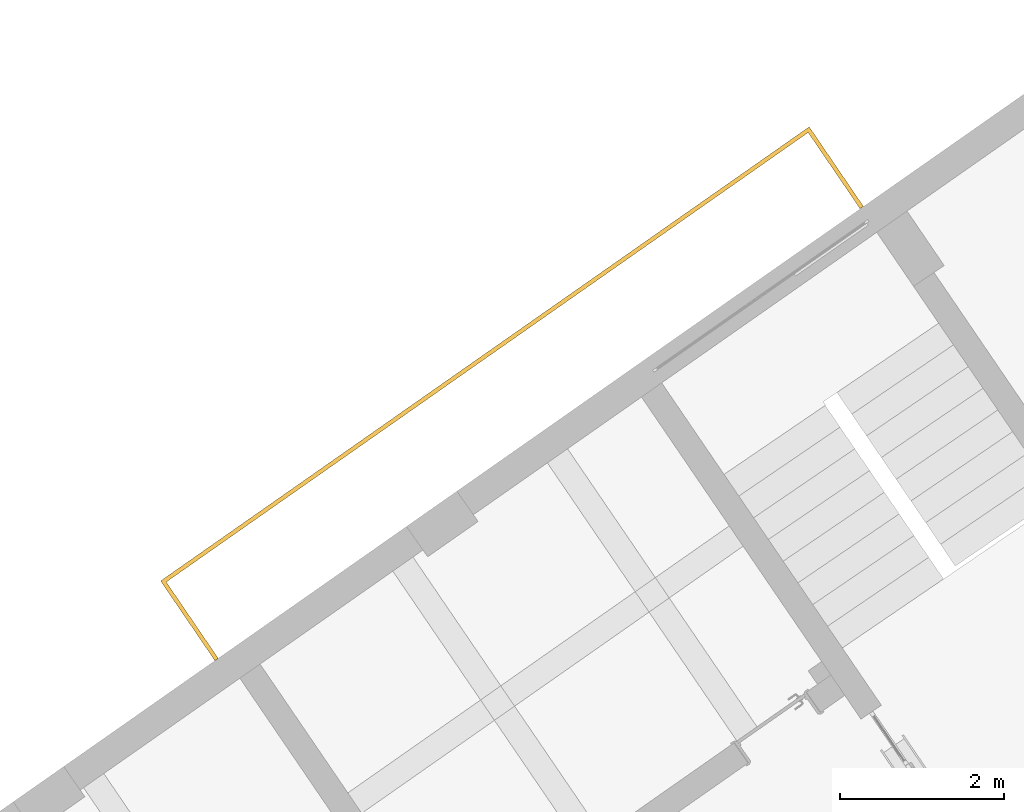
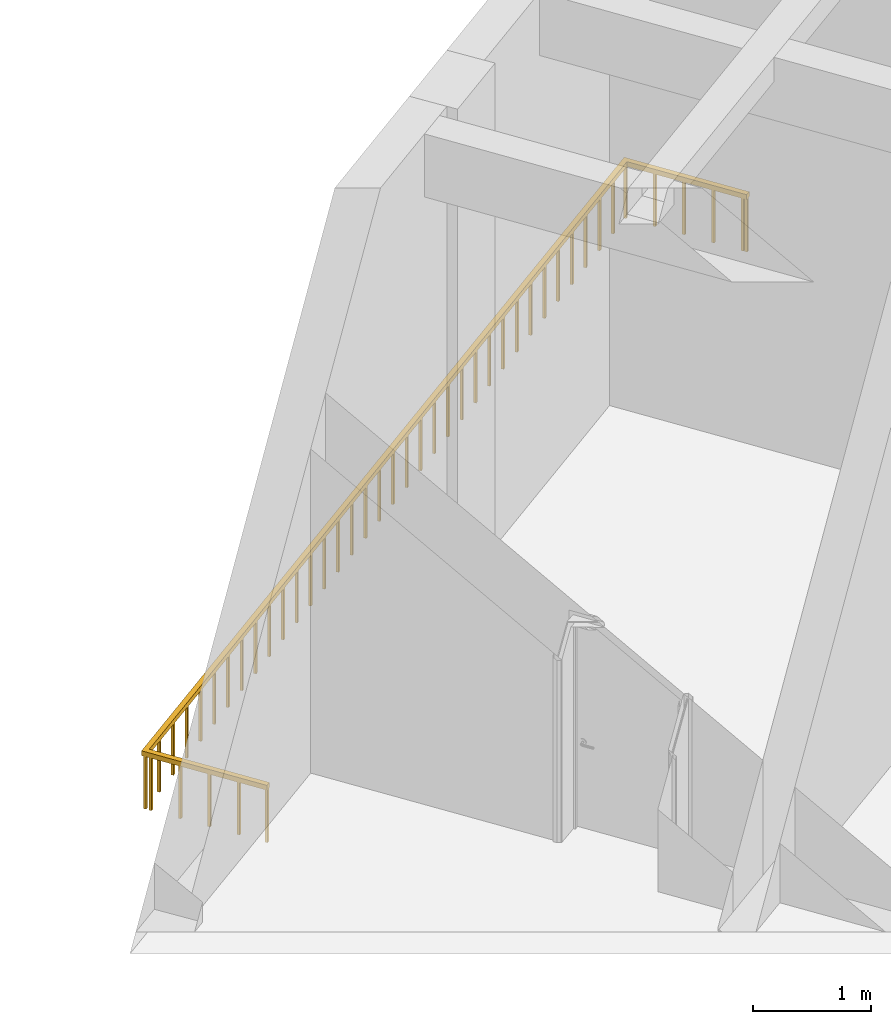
# One storey, part 156 of 157: 1 railing.
"""IFC2X3 building model written with IfcOpenShell, lengths in millimetres."""

import ifcopenshell
import ifcopenshell.guid

model = None  # the IFC model being written
_history = None  # IfcOwnerHistory: only IFC2X3 demands one
_inside = {}  # id of a spatial element -> (the spatial element, [elements in it])
_under = {}  # id of a project, library or spatial element -> (it, [spatial elements below it])
_declared = {}  # id of a project -> (the project, [libraries it declares])
_typed = {}  # id of a type object -> (the type object, [elements of that type])
_made_of = {}  # id of a material, layer set ... -> (it, [elements and type objects made of it])


def new_model(schema):
    """Start an empty IFC model of exactly this schema.

    Asked for "IFC4X3", IfcOpenShell would pick the latest addendum, in which some entities
    have other attributes; the version numbers below select the first issue.
    IFC2X3 requires an IfcOwnerHistory on every rooted entity: one is made here for all.
    """
    global model, _history
    if schema == "IFC4X3":
        model = ifcopenshell.file(schema_version=(4, 3, 0, 0))
    else:
        model = ifcopenshell.file(schema=schema)
    _inside.clear()
    _under.clear()
    _declared.clear()
    _typed.clear()
    _made_of.clear()
    _history = None
    if model.schema == "IFC2X3":
        org = make("IfcOrganization", Name="unknown")
        user = make(
            "IfcPersonAndOrganization",
            ThePerson=make("IfcPerson", FamilyName="unknown"),
            TheOrganization=org,
        )
        app = make(
            "IfcApplication",
            ApplicationDeveloper=org,
            Version="unknown",
            ApplicationFullName="unknown",
            ApplicationIdentifier="unknown",
        )
        _history = make(
            "IfcOwnerHistory",
            OwningUser=user,
            OwningApplication=app,
            ChangeAction="ADDED",
            CreationDate=0,
        )
    return model


def make(cls, **values):
    """One entity of the class cls with the attributes given. An attribute that is None is left unset."""
    return model.create_entity(
        cls, **{name: value for name, value in values.items() if value is not None}
    )


def entity(cls, *values):
    """Any entity or typed value of the class cls, its attributes in the order of the schema. None: left unset."""
    e = model.create_entity(cls)
    for i, value in enumerate(values):
        if value is not None:
            e[i] = value
    return e


def rooted(cls, **values):
    """An entity with a GlobalId (a new one), such as an element, a storey or a relation."""
    return make(cls, GlobalId=ifcopenshell.guid.new(), OwnerHistory=_history, **values)


def si_unit(unit_type, name, prefix=None):
    """IfcSIUnit, for example si_unit("LENGTHUNIT", "METRE", prefix="MILLI")."""
    return make("IfcSIUnit", UnitType=unit_type, Prefix=prefix, Name=name)


def converted_unit(unit_type, name, factor, base, dimensions=None, offset=None):
    """IfcConversionBasedUnit, such as the inch: factor (a typed value) times the base unit."""
    return make(
        "IfcConversionBasedUnit"
        if offset is None
        else "IfcConversionBasedUnitWithOffset",
        ConversionOffset=offset,
        Dimensions=None
        if dimensions is None
        else entity("IfcDimensionalExponents", *dimensions),
        UnitType=unit_type,
        Name=name,
        ConversionFactor=make(
            "IfcMeasureWithUnit", ValueComponent=factor, UnitComponent=base
        ),
    )


def derived_unit(unit_type, elements):
    """IfcDerivedUnit: a product of units, each with its exponent."""
    return make(
        "IfcDerivedUnit",
        Elements=[
            make("IfcDerivedUnitElement", Unit=unit, Exponent=power)
            for unit, power in elements
        ],
        UnitType=unit_type,
    )


def assignment(units):
    """IfcUnitAssignment: the units of a project."""
    return None if units is None else make("IfcUnitAssignment", Units=units)


def point(xyz):
    """IfcCartesianPoint."""
    return None if xyz is None else make("IfcCartesianPoint", Coordinates=xyz)


def direction(xyz):
    """IfcDirection."""
    return None if xyz is None else make("IfcDirection", DirectionRatios=xyz)


def frame(location, z_axis=None, x_axis=None):
    """IfcAxis2Placement3D, a coordinate frame: its origin and axes. An axis left out is left unset."""
    return make(
        "IfcAxis2Placement3D",
        Location=point(location),
        Axis=direction(z_axis),
        RefDirection=direction(x_axis),
    )


def origin():
    """The frame at (0, 0, 0) with its axes left unset."""
    return frame((0.0, 0.0, 0.0))


def place(relative_to, where):
    """IfcLocalPlacement: puts the frame where relative to a parent placement (None: the world)."""
    return make(
        "IfcLocalPlacement", PlacementRelTo=relative_to, RelativePlacement=where
    )


def context(
    kind, dimensions, precision=None, world=None, true_north=None, identifier=None
):
    """IfcGeometricRepresentationContext, for example the 3D "Model" context."""
    return make(
        "IfcGeometricRepresentationContext",
        ContextIdentifier=identifier,
        ContextType=kind,
        CoordinateSpaceDimension=dimensions,
        Precision=precision,
        WorldCoordinateSystem=world,
        TrueNorth=true_north,
    )


def subcontext(parent, identifier, kind, view, scale=None):
    """IfcGeometricRepresentationSubContext, for example "Body" below "Model"."""
    return make(
        "IfcGeometricRepresentationSubContext",
        ContextIdentifier=identifier,
        ContextType=kind,
        ParentContext=parent,
        TargetScale=scale,
        TargetView=view,
    )


def project(units=None, contexts=None):
    """IfcProject with its units and contexts."""
    return rooted(
        "IfcProject",
        Name="project",
        RepresentationContexts=contexts,
        UnitsInContext=assignment(units),
    )


def spatial(cls, under=None, at=None, **own):
    """A site, building, storey or space (cls), placed at a placement, below another one or the project."""
    s = rooted(cls, ObjectPlacement=at, **own)
    if under is not None:
        _under.setdefault(under.id(), (under, []))[1].append(s)
    return s


def faces_of(points, faces, orient=None, outer=None):
    """IfcFace entities. A face is a list of loops; a loop is a list of indices into points, from 0.

    orient and outer hold one flag for each loop. By default every Orientation is true, the
    first loop of a face is its IfcFaceOuterBound and the others are IfcFaceBound.
    """
    made = []
    for i, loops in enumerate(faces):
        bounds = []
        for j, loop in enumerate(loops):
            is_outer = j == 0 if outer is None else outer[i][j]
            bounds.append(
                make(
                    "IfcFaceOuterBound" if is_outer else "IfcFaceBound",
                    Bound=make("IfcPolyLoop", Polygon=[points[k] for k in loop]),
                    Orientation=True if orient is None else orient[i][j],
                )
            )
        made.append(make("IfcFace", Bounds=bounds))
    return made


def faceted_brep(points, faces, orient=None, outer=None, voids=None):
    """IfcFacetedBrep: a solid bounded by flat faces; with voids (closed shells), ...WithVoids."""
    shared = [point(p) for p in points]
    hull = make("IfcClosedShell", CfsFaces=faces_of(shared, faces, orient, outer))
    if voids is None:
        return make("IfcFacetedBrep", Outer=hull)
    return make(
        "IfcFacetedBrepWithVoids",
        Outer=hull,
        Voids=[
            make(cls, CfsFaces=faces_of(shared, fs, o, b)) for cls, fs, o, b in voids
        ],
    )


def shape(context_of_items, identifier, shape_type, items):
    """IfcShapeRepresentation: the items that make up one representation, for example the "Body"."""
    return make(
        "IfcShapeRepresentation",
        ContextOfItems=context_of_items,
        RepresentationIdentifier=identifier,
        RepresentationType=shape_type,
        Items=items,
    )


def material(Name=None, Category=None):
    """IfcMaterial."""
    return make("IfcMaterial", Name=Name, Category=Category)


def made_of(thing, what):
    """Note that an element or type object is made of a material, layer set ...; save() writes the relation."""
    if what is not None:
        _made_of.setdefault(what.id(), (what, []))[1].append(thing)
    return thing


def element(
    cls,
    number,
    at=None,
    inside=None,
    cuts=None,
    type_object=None,
    material=None,
    context=None,
    identifier="Body",
    shape_type=None,
    held_by="IfcProductDefinitionShape",
    body=None,
    shapes=None,
    **own,
):
    """One element of the class cls, such as IfcWall. Its Tag is "e" and its number.

    at: its placement. inside: the storey or other place that contains it. cuts: it is an
    opening in that element (IfcRelVoidsElement). A single representation is given by context,
    identifier, shape_type and body (its items); several are given by shapes. held_by: the class
    of the entity that holds the representations. save() writes the other relations.
    """
    e = rooted(cls, Tag="e%d" % number, ObjectPlacement=at, **own)
    if body is not None:
        shapes = [shape(context, identifier, shape_type, body)]
    if shapes is not None:
        e.Representation = make(held_by, Representations=shapes)
    if inside is not None:
        _inside.setdefault(inside.id(), (inside, []))[1].append(e)
    if cuts is not None:
        rooted(
            "IfcRelVoidsElement", RelatingBuildingElement=cuts, RelatedOpeningElement=e
        )
    if type_object is not None:
        _typed.setdefault(type_object.id(), (type_object, []))[1].append(e)
    return made_of(e, material)


def aggregate(whole, parts):
    """IfcRelAggregates: a whole, such as a stair, and the parts it consists of."""
    return rooted("IfcRelAggregates", RelatingObject=whole, RelatedObjects=parts)


def save(model, path):
    """Write the relations noted so far, then the file.

    IfcRelAggregates (storeys below a building ...), IfcRelContainedInSpatialStructure (elements
    in a storey), IfcRelDefinesByType, IfcRelAssociatesMaterial and IfcRelDeclares: one each for
    every whole, place, type object, material and project.
    """
    for whole, parts in _under.values():
        aggregate(whole, parts)
    for where, things in _inside.values():
        rooted(
            "IfcRelContainedInSpatialStructure",
            RelatedElements=things,
            RelatingStructure=where,
        )
    for kind, things in _typed.values():
        rooted("IfcRelDefinesByType", RelatedObjects=things, RelatingType=kind)
    for what, things in _made_of.values():
        rooted("IfcRelAssociatesMaterial", RelatedObjects=things, RelatingMaterial=what)
    for by, libraries in _declared.values():
        rooted("IfcRelDeclares", RelatingContext=by, RelatedDefinitions=libraries)
    model.write(path)


model = new_model("IFC2X3")

# Units and contexts
model_context = context("Model", 3, precision=0.01, world=origin(), true_north=direction((6.123031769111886e-17, 1.0)))
body_context = subcontext(model_context, "Body", "Model", "MODEL_VIEW")
ifc_project = project(units=[si_unit("LENGTHUNIT", "METRE", prefix="MILLI"), si_unit("AREAUNIT", "SQUARE_METRE"), si_unit("VOLUMEUNIT", "CUBIC_METRE"), converted_unit("PLANEANGLEUNIT", "DEGREE", entity("IfcRatioMeasure", 0.017453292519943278), si_unit("PLANEANGLEUNIT", "RADIAN"), dimensions=[0, 0, 0, 0, 0, 0, 0]), si_unit("MASSUNIT", "GRAM", prefix="KILO"), derived_unit("MASSDENSITYUNIT", [(si_unit("MASSUNIT", "GRAM", prefix="KILO"), 1), (si_unit("LENGTHUNIT", "METRE"), -3)]), derived_unit("MOMENTOFINERTIAUNIT", [(si_unit("LENGTHUNIT", "METRE"), 4)]), si_unit("TIMEUNIT", "SECOND"), si_unit("FREQUENCYUNIT", "HERTZ"), si_unit("THERMODYNAMICTEMPERATUREUNIT", "DEGREE_CELSIUS"), derived_unit("THERMALTRANSMITTANCEUNIT", [(si_unit("MASSUNIT", "GRAM", prefix="KILO"), 1), (si_unit("THERMODYNAMICTEMPERATUREUNIT", "KELVIN"), -1), (si_unit("TIMEUNIT", "SECOND"), -3)]), derived_unit("THERMALCONDUCTANCEUNIT", [(si_unit("MASSUNIT", "GRAM", prefix="KILO"), 1), (si_unit("LENGTHUNIT", "METRE"), 1), (si_unit("THERMODYNAMICTEMPERATUREUNIT", "KELVIN"), -1), (si_unit("TIMEUNIT", "SECOND"), -3)]), derived_unit("VOLUMETRICFLOWRATEUNIT", [(si_unit("LENGTHUNIT", "METRE"), 3), (si_unit("TIMEUNIT", "SECOND"), -1)]), derived_unit("MASSFLOWRATEUNIT", [(si_unit("MASSUNIT", "GRAM", prefix="KILO"), 1), (si_unit("TIMEUNIT", "SECOND"), -1)]), derived_unit("ROTATIONALFREQUENCYUNIT", [(si_unit("TIMEUNIT", "SECOND"), -1)]), si_unit("ELECTRICCURRENTUNIT", "AMPERE"), si_unit("ELECTRICVOLTAGEUNIT", "VOLT"), si_unit("POWERUNIT", "WATT"), converted_unit("FORCEUNIT", "KIP", entity("IfcRatioMeasure", 2.088543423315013e-05), si_unit("FORCEUNIT", "NEWTON"), dimensions=[1, 1, -2, 0, 0, 0, 0]), si_unit("ILLUMINANCEUNIT", "LUX"), si_unit("LUMINOUSFLUXUNIT", "LUMEN"), si_unit("LUMINOUSINTENSITYUNIT", "CANDELA"), derived_unit("USERDEFINED", [(si_unit("MASSUNIT", "GRAM", prefix="KILO"), -1), (si_unit("LENGTHUNIT", "METRE"), -2), (si_unit("TIMEUNIT", "SECOND"), 3), (si_unit("LUMINOUSFLUXUNIT", "LUMEN"), 1)]), derived_unit("USERDEFINED", [(si_unit("MASSUNIT", "GRAM", prefix="KILO"), 1), (si_unit("LENGTHUNIT", "METRE"), 3), (si_unit("TIMEUNIT", "SECOND"), -3), (si_unit("ELECTRICCURRENTUNIT", "AMPERE"), -2)]), derived_unit("USERDEFINED", [(si_unit("LENGTHUNIT", "METRE"), 2), (si_unit("TIMEUNIT", "SECOND"), -2)]), derived_unit("SOUNDPOWERUNIT", [(si_unit("MASSUNIT", "GRAM", prefix="KILO"), 1), (si_unit("LENGTHUNIT", "METRE"), 2), (si_unit("TIMEUNIT", "SECOND"), -3)]), derived_unit("SOUNDPRESSUREUNIT", [(si_unit("MASSUNIT", "GRAM", prefix="KILO"), 1), (si_unit("LENGTHUNIT", "METRE"), -1), (si_unit("TIMEUNIT", "SECOND"), -2)]), derived_unit("LINEARVELOCITYUNIT", [(si_unit("LENGTHUNIT", "METRE"), 1), (si_unit("TIMEUNIT", "SECOND"), -1)]), si_unit("PRESSUREUNIT", "PASCAL"), derived_unit("USERDEFINED", [(si_unit("LENGTHUNIT", "METRE"), -2), (si_unit("MASSUNIT", "GRAM", prefix="KILO"), 1), (si_unit("TIMEUNIT", "SECOND"), -2)]), derived_unit("LINEARFORCEUNIT", [(si_unit("MASSUNIT", "GRAM", prefix="KILO"), 1), (si_unit("LENGTHUNIT", "METRE"), 1), (si_unit("TIMEUNIT", "SECOND"), -2), (si_unit("LENGTHUNIT", "METRE"), -1)]), derived_unit("PLANARFORCEUNIT", [(si_unit("MASSUNIT", "GRAM", prefix="KILO"), 1), (si_unit("LENGTHUNIT", "METRE"), 1), (si_unit("TIMEUNIT", "SECOND"), -2), (si_unit("LENGTHUNIT", "METRE"), -2)]), derived_unit("SPECIFICHEATCAPACITYUNIT", [(si_unit("LENGTHUNIT", "METRE"), 2), (si_unit("TIMEUNIT", "SECOND"), -2), (si_unit("THERMODYNAMICTEMPERATUREUNIT", "KELVIN"), -1)]), derived_unit("VAPORPERMEABILITYUNIT", [(si_unit("TIMEUNIT", "SECOND"), 1), (si_unit("LENGTHUNIT", "METRE"), -1)]), derived_unit("DYNAMICVISCOSITYUNIT", [(si_unit("MASSUNIT", "GRAM", prefix="KILO"), 1), (si_unit("LENGTHUNIT", "METRE"), -1), (si_unit("TIMEUNIT", "SECOND"), -1)]), derived_unit("THERMALEXPANSIONCOEFFICIENTUNIT", [(si_unit("THERMODYNAMICTEMPERATUREUNIT", "KELVIN"), -1)])], contexts=[model_context])

# Site, building, storey
site_placement = place(None, frame((0.0, 0.0, 0.0), z_axis=(0.0, 0.0, 1.0), x_axis=(0.8191520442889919, 0.5735764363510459, 0.0)))
site = spatial("IfcSite", under=ifc_project, at=site_placement, Name="Default", CompositionType="ELEMENT")
building_placement = place(site_placement, origin())
building = spatial("IfcBuilding", under=site, at=building_placement, CompositionType="ELEMENT")
storey_placement = place(building_placement, origin())
storey = spatial("IfcBuildingStorey", under=building, at=storey_placement, Name="1.EG +0.00", CompositionType="ELEMENT", Elevation=-4.331468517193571e-12)

# Railing
ifc_material = material(Name="<Unnamed>")
railing_placement = place(storey_placement, frame((-216474.28123711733, 173019.13123651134, -750.0)))
element("IfcRailing", 1, at=railing_placement, inside=storey, material=ifc_material, Name="Railing:600mm", ObjectType="Railing:600mm", PredefinedType="NOTDEFINED", context=body_context, shape_type="Brep", body=[
    faceted_brep([(9638.838679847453, 64.65667212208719, 550.0), (9638.838679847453, 64.65667212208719, 0.0), (9613.840705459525, 64.97491181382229, 0.0), (9613.84070545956, 64.97491181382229, 550.0), (9613.52246576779, 39.976937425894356, 0.0), (9613.52246576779, 39.97693742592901, 550.0), (9638.520440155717, 39.658697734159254, 0.0), (9638.520440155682, 39.658697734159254, 550.0)], [[[0, 1, 2, 3]], [[3, 2, 4, 5]], [[5, 4, 6, 7]], [[1, 0, 7, 6]], [[0, 3, 5, 7]], [[2, 1, 6, 4]]]),
    faceted_brep([(9642.3393164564, 339.63439038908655, 550.0), (9642.3393164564, 339.63439038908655, 0.0), (9617.341342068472, 339.9526300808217, 0.0), (9617.341342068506, 339.9526300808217, 550.0), (9617.023102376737, 314.9546556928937, 0.0), (9617.023102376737, 314.9546556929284, 550.0), (9642.021076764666, 314.63641600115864, 0.0), (9642.021076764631, 314.63641600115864, 550.0)], [[[0, 1, 2, 3]], [[3, 2, 4, 5]], [[5, 4, 6, 7]], [[1, 0, 7, 6]], [[0, 3, 5, 7]], [[2, 1, 6, 4]]]),
    faceted_brep([(9645.839953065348, 614.612108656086, 550.0), (9645.839953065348, 614.612108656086, 0.0), (9620.84197867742, 614.930348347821, 0.0), (9620.841978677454, 614.930348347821, 550.0), (9620.523738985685, 589.9323739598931, 0.0), (9620.523738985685, 589.9323739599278, 550.0), (9645.521713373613, 589.614134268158, 0.0), (9645.521713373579, 589.614134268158, 550.0)], [[[0, 1, 2, 3]], [[3, 2, 4, 5]], [[5, 4, 6, 7]], [[1, 0, 7, 6]], [[0, 3, 5, 7]], [[2, 1, 6, 4]]]),
    faceted_brep([(9649.340589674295, 889.58982692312, 550.0), (9649.340589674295, 889.58982692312, 0.0), (9624.342615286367, 889.9080666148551, 0.0), (9624.342615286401, 889.9080666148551, 550.0), (9624.024375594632, 864.9100922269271, 0.0), (9624.024375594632, 864.9100922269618, 550.0), (9649.02234998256, 864.5918525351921, 0.0), (9649.022349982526, 864.5918525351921, 550.0)], [[[0, 1, 2, 3]], [[3, 2, 4, 5]], [[5, 4, 6, 7]], [[1, 0, 7, 6]], [[0, 3, 5, 7]], [[2, 1, 6, 4]]]),
    faceted_brep([(9377.162494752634, 1164.7276778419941, 550.0), (9377.162494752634, 1164.7276778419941, 0.0), (9377.162494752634, 1139.7276778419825, 0.0), (9377.162494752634, 1139.7276778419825, 550.0), (9402.162494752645, 1139.7276778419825, 0.0), (9402.162494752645, 1139.7276778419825, 550.0), (9402.162494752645, 1164.7276778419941, 0.0), (9402.162494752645, 1164.7276778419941, 550.0)], [[[0, 1, 2, 3]], [[3, 2, 4, 5]], [[5, 4, 6, 7]], [[1, 0, 7, 6]], [[0, 3, 5, 7]], [[2, 1, 6, 4]]]),
    faceted_brep([(9102.162494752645, 1164.7276778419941, 550.0), (9102.162494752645, 1164.7276778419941, 0.0), (9102.162494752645, 1139.7276778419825, 0.0), (9102.162494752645, 1139.7276778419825, 550.0), (9127.162494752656, 1139.7276778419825, 0.0), (9127.162494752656, 1139.7276778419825, 550.0), (9127.162494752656, 1164.7276778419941, 0.0), (9127.162494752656, 1164.7276778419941, 550.0)], [[[0, 1, 2, 3]], [[3, 2, 4, 5]], [[5, 4, 6, 7]], [[1, 0, 7, 6]], [[0, 3, 5, 7]], [[2, 1, 6, 4]]]),
    faceted_brep([(8827.16249475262, 1164.7276778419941, 550.0), (8827.16249475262, 1164.7276778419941, 0.0), (8827.16249475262, 1139.7276778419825, 0.0), (8827.16249475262, 1139.7276778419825, 550.0), (8852.162494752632, 1139.7276778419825, 0.0), (8852.162494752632, 1139.7276778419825, 550.0), (8852.162494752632, 1164.7276778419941, 0.0), (8852.162494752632, 1164.7276778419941, 550.0)], [[[0, 1, 2, 3]], [[3, 2, 4, 5]], [[5, 4, 6, 7]], [[1, 0, 7, 6]], [[0, 3, 5, 7]], [[2, 1, 6, 4]]]),
    faceted_brep([(8552.16249475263, 1164.7276778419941, 550.0), (8552.16249475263, 1164.7276778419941, 0.0), (8552.16249475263, 1139.7276778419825, 0.0), (8552.16249475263, 1139.7276778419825, 550.0), (8577.162494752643, 1139.7276778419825, 0.0), (8577.162494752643, 1139.7276778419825, 550.0), (8577.162494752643, 1164.7276778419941, 0.0), (8577.162494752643, 1164.7276778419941, 550.0)], [[[0, 1, 2, 3]], [[3, 2, 4, 5]], [[5, 4, 6, 7]], [[1, 0, 7, 6]], [[0, 3, 5, 7]], [[2, 1, 6, 4]]]),
    faceted_brep([(8277.162494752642, 1164.7276778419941, 550.0), (8277.162494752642, 1164.7276778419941, 0.0), (8277.162494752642, 1139.7276778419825, 0.0), (8277.162494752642, 1139.7276778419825, 550.0), (8302.162494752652, 1139.7276778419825, 0.0), (8302.162494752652, 1139.7276778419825, 550.0), (8302.162494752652, 1164.7276778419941, 0.0), (8302.162494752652, 1164.7276778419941, 550.0)], [[[0, 1, 2, 3]], [[3, 2, 4, 5]], [[5, 4, 6, 7]], [[1, 0, 7, 6]], [[0, 3, 5, 7]], [[2, 1, 6, 4]]]),
    faceted_brep([(8002.1624947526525, 1164.7276778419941, 550.0), (8002.1624947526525, 1164.7276778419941, 0.0), (8002.1624947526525, 1139.7276778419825, 0.0), (8002.1624947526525, 1139.7276778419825, 550.0), (8027.162494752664, 1139.7276778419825, 0.0), (8027.162494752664, 1139.7276778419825, 550.0), (8027.162494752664, 1164.7276778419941, 0.0), (8027.162494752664, 1164.7276778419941, 550.0)], [[[0, 1, 2, 3]], [[3, 2, 4, 5]], [[5, 4, 6, 7]], [[1, 0, 7, 6]], [[0, 3, 5, 7]], [[2, 1, 6, 4]]]),
    faceted_brep([(7727.162494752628, 1164.7276778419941, 550.0), (7727.162494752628, 1164.7276778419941, 0.0), (7727.162494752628, 1139.7276778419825, 0.0), (7727.162494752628, 1139.7276778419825, 550.0), (7752.16249475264, 1139.7276778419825, 0.0), (7752.16249475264, 1139.7276778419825, 550.0), (7752.16249475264, 1164.7276778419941, 0.0), (7752.16249475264, 1164.7276778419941, 550.0)], [[[0, 1, 2, 3]], [[3, 2, 4, 5]], [[5, 4, 6, 7]], [[1, 0, 7, 6]], [[0, 3, 5, 7]], [[2, 1, 6, 4]]]),
    faceted_brep([(7452.162494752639, 1164.7276778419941, 550.0), (7452.162494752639, 1164.7276778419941, 0.0), (7452.162494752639, 1139.7276778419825, 0.0), (7452.162494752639, 1139.7276778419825, 550.0), (7477.162494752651, 1139.7276778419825, 0.0), (7477.162494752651, 1139.7276778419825, 550.0), (7477.162494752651, 1164.7276778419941, 0.0), (7477.162494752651, 1164.7276778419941, 550.0)], [[[0, 1, 2, 3]], [[3, 2, 4, 5]], [[5, 4, 6, 7]], [[1, 0, 7, 6]], [[0, 3, 5, 7]], [[2, 1, 6, 4]]]),
    faceted_brep([(7177.162494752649, 1164.7276778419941, 550.0), (7177.162494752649, 1164.7276778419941, 0.0), (7177.162494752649, 1139.7276778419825, 0.0), (7177.162494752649, 1139.7276778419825, 550.0), (7202.162494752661, 1139.7276778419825, 0.0), (7202.162494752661, 1139.7276778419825, 550.0), (7202.162494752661, 1164.7276778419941, 0.0), (7202.162494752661, 1164.7276778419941, 550.0)], [[[0, 1, 2, 3]], [[3, 2, 4, 5]], [[5, 4, 6, 7]], [[1, 0, 7, 6]], [[0, 3, 5, 7]], [[2, 1, 6, 4]]]),
    faceted_brep([(6902.162494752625, 1164.7276778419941, 550.0), (6902.162494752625, 1164.7276778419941, 0.0), (6902.162494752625, 1139.7276778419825, 0.0), (6902.162494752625, 1139.7276778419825, 550.0), (6927.162494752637, 1139.7276778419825, 0.0), (6927.162494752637, 1139.7276778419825, 550.0), (6927.162494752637, 1164.7276778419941, 0.0), (6927.162494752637, 1164.7276778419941, 550.0)], [[[0, 1, 2, 3]], [[3, 2, 4, 5]], [[5, 4, 6, 7]], [[1, 0, 7, 6]], [[0, 3, 5, 7]], [[2, 1, 6, 4]]]),
    faceted_brep([(6627.162494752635, 1164.7276778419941, 550.0), (6627.162494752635, 1164.7276778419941, 0.0), (6627.162494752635, 1139.7276778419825, 0.0), (6627.162494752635, 1139.7276778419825, 550.0), (6652.162494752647, 1139.7276778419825, 0.0), (6652.162494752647, 1139.7276778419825, 550.0), (6652.162494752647, 1164.7276778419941, 0.0), (6652.162494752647, 1164.7276778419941, 550.0)], [[[0, 1, 2, 3]], [[3, 2, 4, 5]], [[5, 4, 6, 7]], [[1, 0, 7, 6]], [[0, 3, 5, 7]], [[2, 1, 6, 4]]]),
    faceted_brep([(6352.162494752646, 1164.7276778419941, 550.0), (6352.162494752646, 1164.7276778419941, 0.0), (6352.162494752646, 1139.7276778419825, 0.0), (6352.162494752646, 1139.7276778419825, 550.0), (6377.162494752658, 1139.7276778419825, 0.0), (6377.162494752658, 1139.7276778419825, 550.0), (6377.162494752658, 1164.7276778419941, 0.0), (6377.162494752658, 1164.7276778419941, 550.0)], [[[0, 1, 2, 3]], [[3, 2, 4, 5]], [[5, 4, 6, 7]], [[1, 0, 7, 6]], [[0, 3, 5, 7]], [[2, 1, 6, 4]]]),
    faceted_brep([(6077.1624947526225, 1164.7276778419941, 550.0), (6077.1624947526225, 1164.7276778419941, 0.0), (6077.1624947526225, 1139.7276778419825, 0.0), (6077.1624947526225, 1139.7276778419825, 550.0), (6102.162494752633, 1139.7276778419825, 0.0), (6102.162494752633, 1139.7276778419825, 550.0), (6102.162494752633, 1164.7276778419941, 0.0), (6102.162494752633, 1164.7276778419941, 550.0)], [[[0, 1, 2, 3]], [[3, 2, 4, 5]], [[5, 4, 6, 7]], [[1, 0, 7, 6]], [[0, 3, 5, 7]], [[2, 1, 6, 4]]]),
    faceted_brep([(5802.1624947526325, 1164.7276778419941, 550.0), (5802.1624947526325, 1164.7276778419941, 0.0), (5802.1624947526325, 1139.7276778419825, 0.0), (5802.1624947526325, 1139.7276778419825, 550.0), (5827.162494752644, 1139.7276778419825, 0.0), (5827.162494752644, 1139.7276778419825, 550.0), (5827.162494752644, 1164.7276778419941, 0.0), (5827.162494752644, 1164.7276778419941, 550.0)], [[[0, 1, 2, 3]], [[3, 2, 4, 5]], [[5, 4, 6, 7]], [[1, 0, 7, 6]], [[0, 3, 5, 7]], [[2, 1, 6, 4]]]),
    faceted_brep([(5527.162494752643, 1164.7276778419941, 550.0), (5527.162494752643, 1164.7276778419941, 0.0), (5527.162494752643, 1139.7276778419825, 0.0), (5527.162494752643, 1139.7276778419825, 550.0), (5552.162494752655, 1139.7276778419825, 0.0), (5552.162494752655, 1139.7276778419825, 550.0), (5552.162494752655, 1164.7276778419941, 0.0), (5552.162494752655, 1164.7276778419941, 550.0)], [[[0, 1, 2, 3]], [[3, 2, 4, 5]], [[5, 4, 6, 7]], [[1, 0, 7, 6]], [[0, 3, 5, 7]], [[2, 1, 6, 4]]]),
    faceted_brep([(5252.162494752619, 1164.7276778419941, 550.0), (5252.162494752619, 1164.7276778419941, 0.0), (5252.162494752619, 1139.7276778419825, 0.0), (5252.162494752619, 1139.7276778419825, 550.0), (5277.162494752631, 1139.7276778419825, 0.0), (5277.162494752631, 1139.7276778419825, 550.0), (5277.162494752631, 1164.7276778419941, 0.0), (5277.162494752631, 1164.7276778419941, 550.0)], [[[0, 1, 2, 3]], [[3, 2, 4, 5]], [[5, 4, 6, 7]], [[1, 0, 7, 6]], [[0, 3, 5, 7]], [[2, 1, 6, 4]]]),
    faceted_brep([(4977.16249475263, 1164.7276778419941, 550.0), (4977.16249475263, 1164.7276778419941, 0.0), (4977.16249475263, 1139.7276778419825, 0.0), (4977.16249475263, 1139.7276778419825, 550.0), (5002.162494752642, 1139.7276778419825, 0.0), (5002.162494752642, 1139.7276778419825, 550.0), (5002.162494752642, 1164.7276778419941, 0.0), (5002.162494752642, 1164.7276778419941, 550.0)], [[[0, 1, 2, 3]], [[3, 2, 4, 5]], [[5, 4, 6, 7]], [[1, 0, 7, 6]], [[0, 3, 5, 7]], [[2, 1, 6, 4]]]),
    faceted_brep([(4702.16249475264, 1164.7276778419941, 550.0), (4702.16249475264, 1164.7276778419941, 0.0), (4702.16249475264, 1139.7276778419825, 0.0), (4702.16249475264, 1139.7276778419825, 550.0), (4727.162494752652, 1139.7276778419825, 0.0), (4727.162494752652, 1139.7276778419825, 550.0), (4727.162494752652, 1164.7276778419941, 0.0), (4727.162494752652, 1164.7276778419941, 550.0)], [[[0, 1, 2, 3]], [[3, 2, 4, 5]], [[5, 4, 6, 7]], [[1, 0, 7, 6]], [[0, 3, 5, 7]], [[2, 1, 6, 4]]]),
    faceted_brep([(4427.162494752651, 1164.7276778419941, 550.0), (4427.162494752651, 1164.7276778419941, 0.0), (4427.162494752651, 1139.7276778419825, 0.0), (4427.162494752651, 1139.7276778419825, 550.0), (4452.1624947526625, 1139.7276778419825, 0.0), (4452.1624947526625, 1139.7276778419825, 550.0), (4452.1624947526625, 1164.7276778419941, 0.0), (4452.1624947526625, 1164.7276778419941, 550.0)], [[[0, 1, 2, 3]], [[3, 2, 4, 5]], [[5, 4, 6, 7]], [[1, 0, 7, 6]], [[0, 3, 5, 7]], [[2, 1, 6, 4]]]),
    faceted_brep([(4152.162494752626, 1164.7276778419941, 550.0), (4152.162494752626, 1164.7276778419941, 0.0), (4152.162494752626, 1139.7276778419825, 0.0), (4152.162494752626, 1139.7276778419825, 550.0), (4177.162494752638, 1139.7276778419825, 0.0), (4177.162494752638, 1139.7276778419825, 550.0), (4177.162494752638, 1164.7276778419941, 0.0), (4177.162494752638, 1164.7276778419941, 550.0)], [[[0, 1, 2, 3]], [[3, 2, 4, 5]], [[5, 4, 6, 7]], [[1, 0, 7, 6]], [[0, 3, 5, 7]], [[2, 1, 6, 4]]]),
    faceted_brep([(3877.162494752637, 1164.7276778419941, 550.0), (3877.162494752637, 1164.7276778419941, 0.0), (3877.162494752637, 1139.7276778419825, 0.0), (3877.162494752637, 1139.7276778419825, 550.0), (3902.162494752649, 1139.7276778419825, 0.0), (3902.162494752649, 1139.7276778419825, 550.0), (3902.162494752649, 1164.7276778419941, 0.0), (3902.162494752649, 1164.7276778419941, 550.0)], [[[0, 1, 2, 3]], [[3, 2, 4, 5]], [[5, 4, 6, 7]], [[1, 0, 7, 6]], [[0, 3, 5, 7]], [[2, 1, 6, 4]]]),
    faceted_brep([(3602.1624947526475, 1164.7276778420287, 550.0), (3602.1624947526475, 1164.7276778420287, 0.0), (3602.1624947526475, 1139.727677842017, 0.0), (3602.1624947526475, 1139.727677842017, 550.0), (3627.1624947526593, 1139.727677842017, 0.0), (3627.1624947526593, 1139.727677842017, 550.0), (3627.1624947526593, 1164.7276778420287, 0.0), (3627.1624947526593, 1164.7276778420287, 550.0)], [[[0, 1, 2, 3]], [[3, 2, 4, 5]], [[5, 4, 6, 7]], [[1, 0, 7, 6]], [[0, 3, 5, 7]], [[2, 1, 6, 4]]]),
    faceted_brep([(3327.1624947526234, 1164.7276778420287, 550.0), (3327.1624947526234, 1164.7276778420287, 0.0), (3327.1624947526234, 1139.727677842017, 0.0), (3327.1624947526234, 1139.727677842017, 550.0), (3352.162494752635, 1139.727677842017, 0.0), (3352.162494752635, 1139.727677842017, 550.0), (3352.162494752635, 1164.7276778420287, 0.0), (3352.162494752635, 1164.7276778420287, 550.0)], [[[0, 1, 2, 3]], [[3, 2, 4, 5]], [[5, 4, 6, 7]], [[1, 0, 7, 6]], [[0, 3, 5, 7]], [[2, 1, 6, 4]]]),
    faceted_brep([(3052.162494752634, 1164.7276778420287, 550.0), (3052.162494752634, 1164.7276778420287, 0.0), (3052.162494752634, 1139.727677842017, 0.0), (3052.162494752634, 1139.727677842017, 550.0), (3077.1624947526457, 1139.727677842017, 0.0), (3077.1624947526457, 1139.727677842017, 550.0), (3077.1624947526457, 1164.7276778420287, 0.0), (3077.1624947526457, 1164.7276778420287, 550.0)], [[[0, 1, 2, 3]], [[3, 2, 4, 5]], [[5, 4, 6, 7]], [[1, 0, 7, 6]], [[0, 3, 5, 7]], [[2, 1, 6, 4]]]),
    faceted_brep([(2777.1624947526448, 1164.7276778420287, 550.0), (2777.1624947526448, 1164.7276778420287, 0.0), (2777.1624947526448, 1139.727677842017, 0.0), (2777.1624947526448, 1139.727677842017, 550.0), (2802.162494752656, 1139.727677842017, 0.0), (2802.162494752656, 1139.727677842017, 550.0), (2802.162494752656, 1164.7276778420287, 0.0), (2802.162494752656, 1164.7276778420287, 550.0)], [[[0, 1, 2, 3]], [[3, 2, 4, 5]], [[5, 4, 6, 7]], [[1, 0, 7, 6]], [[0, 3, 5, 7]], [[2, 1, 6, 4]]]),
    faceted_brep([(2502.1624947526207, 1164.7276778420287, 550.0), (2502.1624947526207, 1164.7276778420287, 0.0), (2502.1624947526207, 1139.727677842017, 0.0), (2502.1624947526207, 1139.727677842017, 550.0), (2527.162494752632, 1139.727677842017, 0.0), (2527.162494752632, 1139.727677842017, 550.0), (2527.162494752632, 1164.7276778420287, 0.0), (2527.162494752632, 1164.7276778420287, 550.0)], [[[0, 1, 2, 3]], [[3, 2, 4, 5]], [[5, 4, 6, 7]], [[1, 0, 7, 6]], [[0, 3, 5, 7]], [[2, 1, 6, 4]]]),
    faceted_brep([(2227.162494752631, 1164.7276778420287, 550.0), (2227.162494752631, 1164.7276778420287, 0.0), (2227.162494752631, 1139.727677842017, 0.0), (2227.162494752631, 1139.727677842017, 550.0), (2252.1624947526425, 1139.727677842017, 0.0), (2252.1624947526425, 1139.727677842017, 550.0), (2252.1624947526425, 1164.7276778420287, 0.0), (2252.1624947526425, 1164.7276778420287, 550.0)], [[[0, 1, 2, 3]], [[3, 2, 4, 5]], [[5, 4, 6, 7]], [[1, 0, 7, 6]], [[0, 3, 5, 7]], [[2, 1, 6, 4]]]),
    faceted_brep([(1952.1624947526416, 1164.7276778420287, 550.0), (1952.1624947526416, 1164.7276778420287, 0.0), (1952.1624947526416, 1139.727677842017, 0.0), (1952.1624947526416, 1139.727677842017, 550.0), (1977.1624947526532, 1139.727677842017, 0.0), (1977.1624947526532, 1139.727677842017, 550.0), (1977.1624947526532, 1164.7276778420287, 0.0), (1977.1624947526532, 1164.7276778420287, 550.0)], [[[0, 1, 2, 3]], [[3, 2, 4, 5]], [[5, 4, 6, 7]], [[1, 0, 7, 6]], [[0, 3, 5, 7]], [[2, 1, 6, 4]]]),
    faceted_brep([(1677.1624947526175, 1164.7276778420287, 550.0), (1677.1624947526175, 1164.7276778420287, 0.0), (1677.1624947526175, 1139.727677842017, 0.0), (1677.1624947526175, 1139.727677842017, 550.0), (1702.162494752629, 1139.727677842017, 0.0), (1702.162494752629, 1139.727677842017, 550.0), (1702.162494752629, 1164.7276778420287, 0.0), (1702.162494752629, 1164.7276778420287, 550.0)], [[[0, 1, 2, 3]], [[3, 2, 4, 5]], [[5, 4, 6, 7]], [[1, 0, 7, 6]], [[0, 3, 5, 7]], [[2, 1, 6, 4]]]),
    faceted_brep([(1402.162494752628, 1164.7276778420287, 550.0), (1402.162494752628, 1164.7276778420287, 0.0), (1402.162494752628, 1139.727677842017, 0.0), (1402.162494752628, 1139.727677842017, 550.0), (1427.1624947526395, 1139.727677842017, 0.0), (1427.1624947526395, 1139.727677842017, 550.0), (1427.1624947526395, 1164.7276778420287, 0.0), (1427.1624947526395, 1164.7276778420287, 550.0)], [[[0, 1, 2, 3]], [[3, 2, 4, 5]], [[5, 4, 6, 7]], [[1, 0, 7, 6]], [[0, 3, 5, 7]], [[2, 1, 6, 4]]]),
    faceted_brep([(1127.1624947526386, 1164.7276778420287, 550.0), (1127.1624947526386, 1164.7276778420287, 0.0), (1127.1624947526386, 1139.727677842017, 0.0), (1127.1624947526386, 1139.727677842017, 550.0), (1152.1624947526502, 1139.727677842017, 0.0), (1152.1624947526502, 1139.727677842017, 550.0), (1152.1624947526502, 1164.7276778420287, 0.0), (1152.1624947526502, 1164.7276778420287, 550.0)], [[[0, 1, 2, 3]], [[3, 2, 4, 5]], [[5, 4, 6, 7]], [[1, 0, 7, 6]], [[0, 3, 5, 7]], [[2, 1, 6, 4]]]),
    faceted_brep([(852.1624947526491, 1164.7276778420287, 550.0), (852.1624947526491, 1164.7276778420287, 0.0), (852.1624947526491, 1139.727677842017, 0.0), (852.1624947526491, 1139.727677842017, 550.0), (877.1624947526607, 1139.727677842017, 0.0), (877.1624947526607, 1139.727677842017, 550.0), (877.1624947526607, 1164.7276778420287, 0.0), (877.1624947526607, 1164.7276778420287, 550.0)], [[[0, 1, 2, 3]], [[3, 2, 4, 5]], [[5, 4, 6, 7]], [[1, 0, 7, 6]], [[0, 3, 5, 7]], [[2, 1, 6, 4]]]),
    faceted_brep([(577.162494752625, 1164.7276778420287, 550.0), (577.162494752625, 1164.7276778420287, 0.0), (577.162494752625, 1139.727677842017, 0.0), (577.162494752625, 1139.727677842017, 550.0), (602.1624947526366, 1139.727677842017, 0.0), (602.1624947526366, 1139.727677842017, 550.0), (602.1624947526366, 1164.7276778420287, 0.0), (602.1624947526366, 1164.7276778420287, 550.0)], [[[0, 1, 2, 3]], [[3, 2, 4, 5]], [[5, 4, 6, 7]], [[1, 0, 7, 6]], [[0, 3, 5, 7]], [[2, 1, 6, 4]]]),
    faceted_brep([(302.1624947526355, 1164.7276778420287, 550.0), (302.1624947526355, 1164.7276778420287, 0.0), (302.1624947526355, 1139.727677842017, 0.0), (302.1624947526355, 1139.727677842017, 550.0), (327.16249475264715, 1139.727677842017, 0.0), (327.16249475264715, 1139.727677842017, 550.0), (327.16249475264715, 1164.7276778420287, 0.0), (327.16249475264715, 1164.7276778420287, 550.0)], [[[0, 1, 2, 3]], [[3, 2, 4, 5]], [[5, 4, 6, 7]], [[1, 0, 7, 6]], [[0, 3, 5, 7]], [[2, 1, 6, 4]]]),
    faceted_brep([(26.342413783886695, 1087.8892454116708, 550.0), (26.342413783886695, 1087.8892454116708, 0.0), (51.34038817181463, 1087.5710057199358, 0.0), (51.34038817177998, 1087.5710057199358, 550.0), (51.65862786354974, 1112.5689801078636, 0.0), (51.65862786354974, 1112.568980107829, 550.0), (26.660653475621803, 1112.8872197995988, 0.0), (26.660653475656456, 1112.8872197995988, 550.0)], [[[0, 1, 2, 3]], [[3, 2, 4, 5]], [[5, 4, 6, 7]], [[1, 0, 7, 6]], [[0, 3, 5, 7]], [[2, 1, 6, 4]]]),
    faceted_brep([(22.841777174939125, 812.9115271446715, 550.0), (22.841777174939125, 812.9115271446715, 0.0), (47.83975156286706, 812.5932874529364, 0.0), (47.83975156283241, 812.5932874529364, 550.0), (48.157991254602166, 837.5912618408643, 0.0), (48.157991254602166, 837.5912618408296, 550.0), (23.160016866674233, 837.9095015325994, 0.0), (23.160016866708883, 837.9095015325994, 550.0)], [[[0, 1, 2, 3]], [[3, 2, 4, 5]], [[5, 4, 6, 7]], [[1, 0, 7, 6]], [[0, 3, 5, 7]], [[2, 1, 6, 4]]]),
    faceted_brep([(19.34114056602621, 537.933808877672, 550.0), (19.34114056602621, 537.933808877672, 0.0), (44.339114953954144, 537.615569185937, 0.0), (44.33911495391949, 537.615569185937, 550.0), (44.657354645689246, 562.613543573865, 0.0), (44.657354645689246, 562.6135435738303, 550.0), (19.659380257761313, 562.9317832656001, 0.0), (19.659380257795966, 562.9317832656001, 550.0)], [[[0, 1, 2, 3]], [[3, 2, 4, 5]], [[5, 4, 6, 7]], [[1, 0, 7, 6]], [[0, 3, 5, 7]], [[2, 1, 6, 4]]]),
    faceted_brep([(15.840503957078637, 262.95609061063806, 550.0), (15.840503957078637, 262.95609061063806, 0.0), (40.83847834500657, 262.637850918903, 0.0), (40.83847834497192, 262.637850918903, 550.0), (41.15671803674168, 287.6358253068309, 0.0), (41.15671803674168, 287.6358253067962, 550.0), (16.158743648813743, 287.954064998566, 0.0), (16.158743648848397, 287.954064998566, 550.0)], [[[0, 1, 2, 3]], [[3, 2, 4, 5]], [[5, 4, 6, 7]], [[1, 0, 7, 6]], [[0, 3, 5, 7]], [[2, 1, 6, 4]]]),
    faceted_brep([(9627.683119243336, 1164.7276778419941, 550.0), (9627.683119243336, 1164.7276778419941, 0.0), (9627.683119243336, 1139.7276778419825, 0.0), (9627.683119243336, 1139.7276778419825, 550.0), (9652.683119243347, 1139.7276778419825, 0.0), (9652.683119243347, 1139.7276778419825, 550.0), (9652.683119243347, 1164.7276778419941, 0.0), (9652.683119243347, 1164.7276778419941, 550.0)], [[[0, 1, 2, 3]], [[3, 2, 4, 5]], [[5, 4, 6, 7]], [[1, 0, 7, 6]], [[0, 3, 5, 7]], [[2, 1, 6, 4]]]),
    faceted_brep([(27.00438771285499, 1139.887810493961, 550.0), (27.00438771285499, 1139.887810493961, 0.0), (52.002362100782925, 1139.569570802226, 0.0), (52.00236210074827, 1139.569570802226, 550.0), (52.320601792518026, 1164.567545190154, 0.0), (52.320601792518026, 1164.5675451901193, 550.0), (27.322627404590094, 1164.885784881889, 0.0), (27.322627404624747, 1164.885784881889, 550.0)], [[[0, 1, 2, 3]], [[3, 2, 4, 5]], [[5, 4, 6, 7]], [[1, 0, 7, 6]], [[0, 3, 5, 7]], [[2, 1, 6, 4]]]),
    faceted_brep([(9638.384442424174, 28.975970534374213, 550.0), (9638.384442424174, 28.975970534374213, 0.0), (9613.386468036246, 29.294210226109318, 0.0), (9613.38646803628, 29.294210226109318, 550.0), (9613.068228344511, 4.296235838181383, 0.0), (9613.068228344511, 4.296235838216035, 550.0), (9638.06620273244, 3.977996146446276, 0.0), (9638.066202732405, 3.977996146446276, 550.0)], [[[0, 1, 2, 3]], [[3, 2, 4, 5]], [[5, 4, 6, 7]], [[1, 0, 7, 6]], [[0, 3, 5, 7]], [[2, 1, 6, 4]]]),
    faceted_brep([(12.49898719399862, 0.4773595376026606, 550.0), (12.49898719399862, 0.4773595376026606, 0.0), (37.496961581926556, 0.15911984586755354, 0.0), (37.4969615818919, 0.15911984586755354, 550.0), (37.815201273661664, 25.157094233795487, 0.0), (37.815201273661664, 25.157094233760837, 550.0), (12.817226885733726, 25.475333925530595, 0.0), (12.817226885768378, 25.475333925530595, 550.0)], [[[0, 1, 2, 3]], [[3, 2, 4, 5]], [[5, 4, 6, 7]], [[1, 0, 7, 6]], [[0, 3, 5, 7]], [[2, 1, 6, 4]]]),
    faceted_brep([(0.0, 0.6364793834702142, 600.0), (0.0, 0.6364793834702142, 550.0), (49.99594877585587, 0.0, 550.0), (49.99594877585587, 0.0, 600.0), (14.978734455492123, 1177.2276778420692, 600.0), (14.978734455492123, 1177.2276778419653, 550.0), (64.3462550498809, 1127.2276778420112, 550.0), (64.3462550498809, 1127.2276778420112, 600.0), (9665.503410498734, 1177.2276778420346, 600.0), (9665.50341049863, 1177.2276778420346, 550.0), (9614.86282798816, 1127.227677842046, 550.0), (9614.86282798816, 1127.227677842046, 600.0), (9650.565189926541, 3.8188763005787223, 600.0), (9600.56924115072, 4.455355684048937, 600.0), (9600.569241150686, 4.455355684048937, 550.0), (9650.565189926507, 3.8188763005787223, 550.0)], [[[0, 1, 2, 3]], [[1, 0, 4, 5]], [[2, 1, 5, 6]], [[3, 2, 6, 7]], [[0, 3, 7, 4]], [[5, 4, 8, 9]], [[6, 5, 9, 10]], [[7, 6, 10, 11]], [[4, 7, 11, 8]], [[12, 13, 14, 15]], [[9, 8, 12, 15]], [[10, 9, 15, 14]], [[11, 10, 14, 13]], [[8, 11, 13, 12]]]),
])

save(model, "model.ifc")
